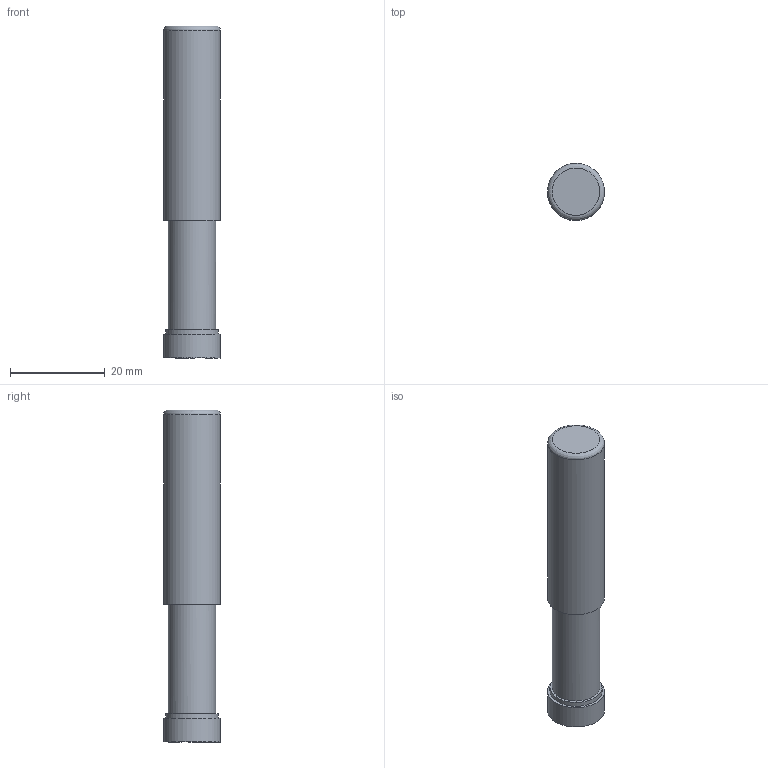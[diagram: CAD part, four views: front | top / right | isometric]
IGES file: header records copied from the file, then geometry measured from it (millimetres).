
Global section: file name: 153-00583_UT 12; native system: Autodesk Inventor 2018; preprocessor: unknown; author: ss; date: 20190116.102444; units: millimetre
Bounding box: 12 x 11.99 x 70 mm (x, y, z)
Volume: 7104.5 mm3; surface area: 2774 mm2
Topology: 1 solids, 1 shells, 10 faces, 18 edges, 13 vertices
Faces by surface type: bspline 10
